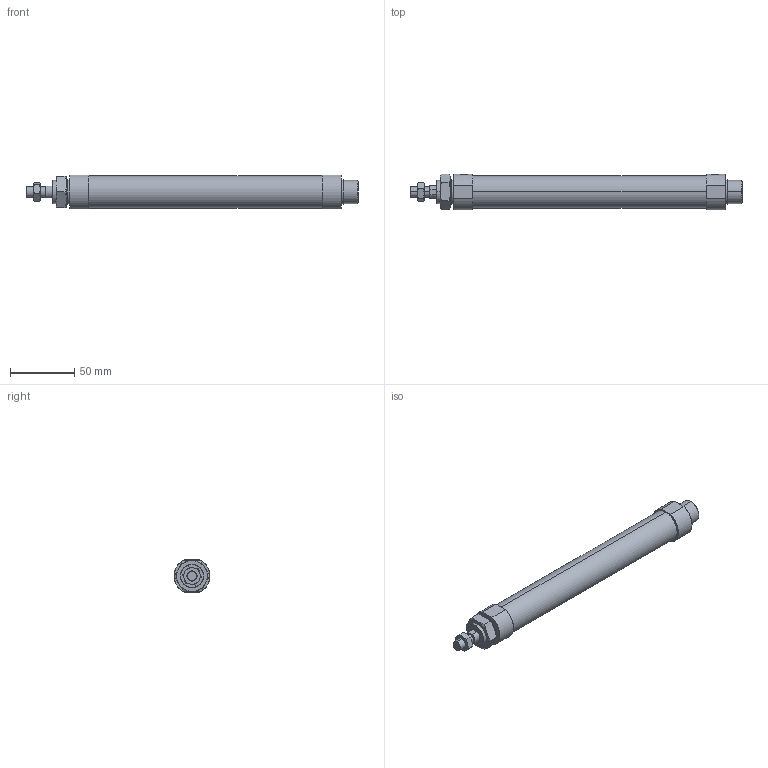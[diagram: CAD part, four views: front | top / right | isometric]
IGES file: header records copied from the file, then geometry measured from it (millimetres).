
Start section: SolidWorks IGES file using analytic representation for surfaces
Global section: file name: C:\Users\Toshiba\Desktop\J#2-20-150-N.IGS; native system: SolidWorks 2014; preprocessor: SolidWorks 2014; author: Toshiba; date: 160308.150656; units: millimetre
Bounding box: 259 x 28 x 26 mm (x, y, z)
Surface area: 23222.8 mm2 (no closed solid volume)
Topology: 0 solids, 0 shells, 92 faces, 1620 edges, 1620 vertices
Faces by surface type: bspline 60, revolution 32
